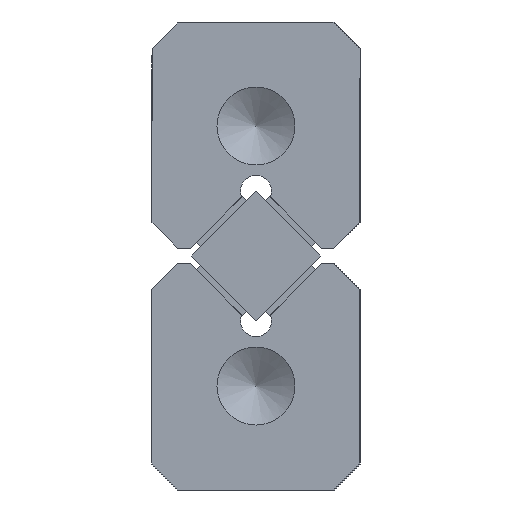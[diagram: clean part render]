
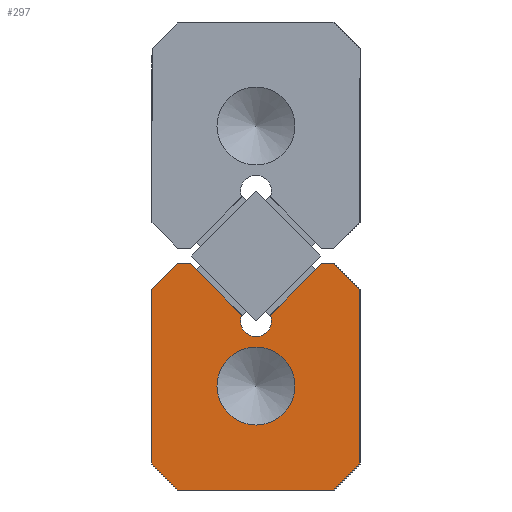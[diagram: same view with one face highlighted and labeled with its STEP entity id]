
A CAD part, left-side view. The second image highlights one B-rep face of the part: STEP entity #297.
In plain terms, the highlighted planar face has unit normal (-1, 0, 0).
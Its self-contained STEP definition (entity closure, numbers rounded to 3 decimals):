
#98=CARTESIAN_POINT('',(0.0,-3.,5.2));
#99=VERTEX_POINT('',#98);
#106=CARTESIAN_POINT('',(0.0,-4.0,4.2));
#107=VERTEX_POINT('',#106);
#108=CARTESIAN_POINT('',(0.0,-3.,5.2));
#109=DIRECTION('',(0.0,-0.707,-0.707));
#110=VECTOR('',#109,1.414);
#111=LINE('',#108,#110);
#112=EDGE_CURVE('',#99,#107,#111,.T.);
#129=CARTESIAN_POINT('',(0.0,-4.0,-2.5));
#130=VERTEX_POINT('',#129);
#131=CARTESIAN_POINT('',(0.0,-4.0,4.2));
#132=DIRECTION('',(0.0,0.0,-1.0));
#133=VECTOR('',#132,6.7);
#134=LINE('',#131,#133);
#135=EDGE_CURVE('',#107,#130,#134,.T.);
#198=CARTESIAN_POINT('',(0.0,0.,0.885));
#199=DIRECTION('',(1.0,0.0,0.0));
#200=DIRECTION('',(0.0,0.0,-1.0));
#201=AXIS2_PLACEMENT_3D('',#198,#199,#200);
#202=PLANE('',#201);
#203=ORIENTED_EDGE('',*,*,#112,.F.);
#204=CARTESIAN_POINT('',(0.0,-2.528,5.2));
#205=VERTEX_POINT('',#204);
#206=CARTESIAN_POINT('',(0.0,-2.528,5.2));
#207=DIRECTION('',(0.0,-1.0,0.0));
#208=VECTOR('',#207,0.472);
#209=LINE('',#206,#208);
#210=EDGE_CURVE('',#205,#99,#209,.T.);
#211=ORIENTED_EDGE('',*,*,#210,.F.);
#212=CARTESIAN_POINT('',(0.0,-0.555,3.227));
#213=VERTEX_POINT('',#212);
#214=CARTESIAN_POINT('',(0.0,-0.555,3.227));
#215=DIRECTION('',(0.0,-0.707,0.707));
#216=VECTOR('',#215,2.79);
#217=LINE('',#214,#216);
#218=EDGE_CURVE('',#213,#205,#217,.T.);
#219=ORIENTED_EDGE('',*,*,#218,.F.);
#220=CARTESIAN_POINT('',(0.0,0.555,3.227));
#221=VERTEX_POINT('',#220);
#222=CARTESIAN_POINT('',(0.0,0.0,3.));
#223=DIRECTION('',(-1.,0.0,0.0));
#224=DIRECTION('',(0.0,0.926,-0.378));
#225=AXIS2_PLACEMENT_3D('',#222,#223,#224);
#226=CIRCLE('',#225,0.6);
#227=EDGE_CURVE('',#221,#213,#226,.T.);
#228=ORIENTED_EDGE('',*,*,#227,.F.);
#229=CARTESIAN_POINT('',(0.0,2.528,5.2));
#230=VERTEX_POINT('',#229);
#231=CARTESIAN_POINT('',(0.0,2.528,5.2));
#232=DIRECTION('',(0.0,-0.707,-0.707));
#233=VECTOR('',#232,2.79);
#234=LINE('',#231,#233);
#235=EDGE_CURVE('',#230,#221,#234,.T.);
#236=ORIENTED_EDGE('',*,*,#235,.F.);
#237=CARTESIAN_POINT('',(0.0,3.,5.2));
#238=VERTEX_POINT('',#237);
#239=CARTESIAN_POINT('',(0.0,3.,5.2));
#240=DIRECTION('',(0.0,-1.0,0.0));
#241=VECTOR('',#240,0.472);
#242=LINE('',#239,#241);
#243=EDGE_CURVE('',#238,#230,#242,.T.);
#244=ORIENTED_EDGE('',*,*,#243,.F.);
#245=CARTESIAN_POINT('',(0.0,4.0,4.2));
#246=VERTEX_POINT('',#245);
#247=CARTESIAN_POINT('',(0.0,4.0,4.2));
#248=DIRECTION('',(0.0,-0.707,0.707));
#249=VECTOR('',#248,1.414);
#250=LINE('',#247,#249);
#251=EDGE_CURVE('',#246,#238,#250,.T.);
#252=ORIENTED_EDGE('',*,*,#251,.F.);
#253=CARTESIAN_POINT('',(0.0,4.0,-2.5));
#254=VERTEX_POINT('',#253);
#255=CARTESIAN_POINT('',(0.0,4.0,-2.5));
#256=DIRECTION('',(0.0,0.0,1.0));
#257=VECTOR('',#256,6.7);
#258=LINE('',#255,#257);
#259=EDGE_CURVE('',#254,#246,#258,.T.);
#260=ORIENTED_EDGE('',*,*,#259,.F.);
#261=CARTESIAN_POINT('',(0.0,3.,-3.5));
#262=VERTEX_POINT('',#261);
#263=CARTESIAN_POINT('',(0.0,3.,-3.5));
#264=DIRECTION('',(0.0,0.707,0.707));
#265=VECTOR('',#264,1.414);
#266=LINE('',#263,#265);
#267=EDGE_CURVE('',#262,#254,#266,.T.);
#268=ORIENTED_EDGE('',*,*,#267,.F.);
#269=CARTESIAN_POINT('',(0.0,-3.,-3.5));
#270=VERTEX_POINT('',#269);
#271=CARTESIAN_POINT('',(0.0,-3.,-3.5));
#272=DIRECTION('',(0.0,1.0,0.0));
#273=VECTOR('',#272,6.);
#274=LINE('',#271,#273);
#275=EDGE_CURVE('',#270,#262,#274,.T.);
#276=ORIENTED_EDGE('',*,*,#275,.F.);
#277=CARTESIAN_POINT('',(0.0,-4.0,-2.5));
#278=DIRECTION('',(0.0,0.707,-0.707));
#279=VECTOR('',#278,1.414);
#280=LINE('',#277,#279);
#281=EDGE_CURVE('',#130,#270,#280,.T.);
#282=ORIENTED_EDGE('',*,*,#281,.F.);
#283=ORIENTED_EDGE('',*,*,#135,.F.);
#284=EDGE_LOOP('',(#203,#211,#219,#228,#236,#244,#252,#260,#268,#276,#282,#283));
#285=FACE_OUTER_BOUND('',#284,.T.);
#286=CARTESIAN_POINT('',(0.0,1.5,0.5));
#287=VERTEX_POINT('',#286);
#288=CARTESIAN_POINT('',(0.0,0.0,0.5));
#289=DIRECTION('',(1.0,0.0,0.0));
#290=DIRECTION('',(0.0,1.0,0.0));
#291=AXIS2_PLACEMENT_3D('',#288,#289,#290);
#292=CIRCLE('',#291,1.5);
#293=EDGE_CURVE('',#287,#287,#292,.T.);
#294=ORIENTED_EDGE('',*,*,#293,.T.);
#295=EDGE_LOOP('',(#294));
#296=FACE_BOUND('',#295,.T.);
#297=ADVANCED_FACE('',(#285,#296),#202,.F.);
